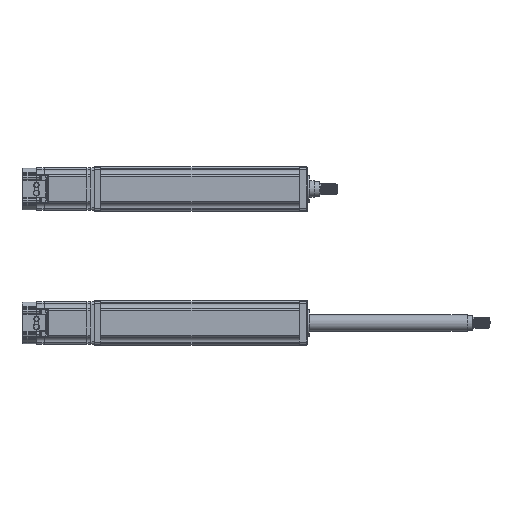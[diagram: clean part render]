
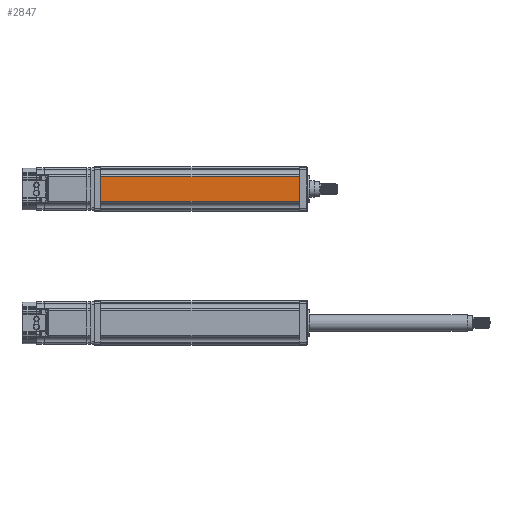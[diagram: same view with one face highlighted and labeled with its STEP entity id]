
A CAD part, top view. The second image highlights one B-rep face of the part: STEP entity #2847.
In plain terms, the highlighted planar face has unit normal (0, 0, 1).
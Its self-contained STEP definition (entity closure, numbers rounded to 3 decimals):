
#2847=ADVANCED_FACE('',(#7017),#7018,.F.);
#7017=FACE_OUTER_BOUND('',#15264,.T.);
#7018=PLANE('',#15265);
#15264=EDGE_LOOP('',(#30216,#30217,#30218,#30219));
#15265=AXIS2_PLACEMENT_3D('',#30220,#30221,#30222);
#30216=ORIENTED_EDGE('',*,*,#46562,.F.);
#30217=ORIENTED_EDGE('',*,*,#46563,.F.);
#30218=ORIENTED_EDGE('',*,*,#46564,.F.);
#30219=ORIENTED_EDGE('',*,*,#46565,.F.);
#30220=CARTESIAN_POINT('',(604.0,182.885,203.67));
#30221=DIRECTION('',(0.,0.,-1.0));
#30222=DIRECTION('',(1.0,0.,0.));
#46562=EDGE_CURVE('',#54724,#54725,#54726,.T.);
#46563=EDGE_CURVE('',#54727,#54724,#54728,.T.);
#46564=EDGE_CURVE('',#54729,#54727,#54730,.T.);
#46565=EDGE_CURVE('',#54725,#54729,#54731,.T.);
#54724=VERTEX_POINT('',#76916);
#54725=VERTEX_POINT('',#76917);
#54726=LINE('',#76918,#76919);
#54727=VERTEX_POINT('',#76920);
#54728=LINE('',#76921,#76922);
#54729=VERTEX_POINT('',#76923);
#54730=LINE('',#76924,#76925);
#54731=LINE('',#76926,#76927);
#76916=CARTESIAN_POINT('',(864.0,150.885,203.67));
#76917=CARTESIAN_POINT('',(604.0,150.885,203.67));
#76918=CARTESIAN_POINT('',(734.0,150.885,203.67));
#76919=VECTOR('',#107294,1.625);
#76920=CARTESIAN_POINT('',(864.0,182.885,203.67));
#76921=CARTESIAN_POINT('',(864.0,166.885,203.67));
#76922=VECTOR('',#107295,1.0);
#76923=CARTESIAN_POINT('',(604.0,182.885,203.67));
#76924=CARTESIAN_POINT('',(734.0,182.885,203.67));
#76925=VECTOR('',#107296,1.625);
#76926=CARTESIAN_POINT('',(604.0,166.885,203.67));
#76927=VECTOR('',#107297,1.0);
#107294=DIRECTION('',(-1.0,0.,0.));
#107295=DIRECTION('',(0.,-1.0,0.0));
#107296=DIRECTION('',(1.0,0.,0.));
#107297=DIRECTION('',(0.,1.0,0.0));
